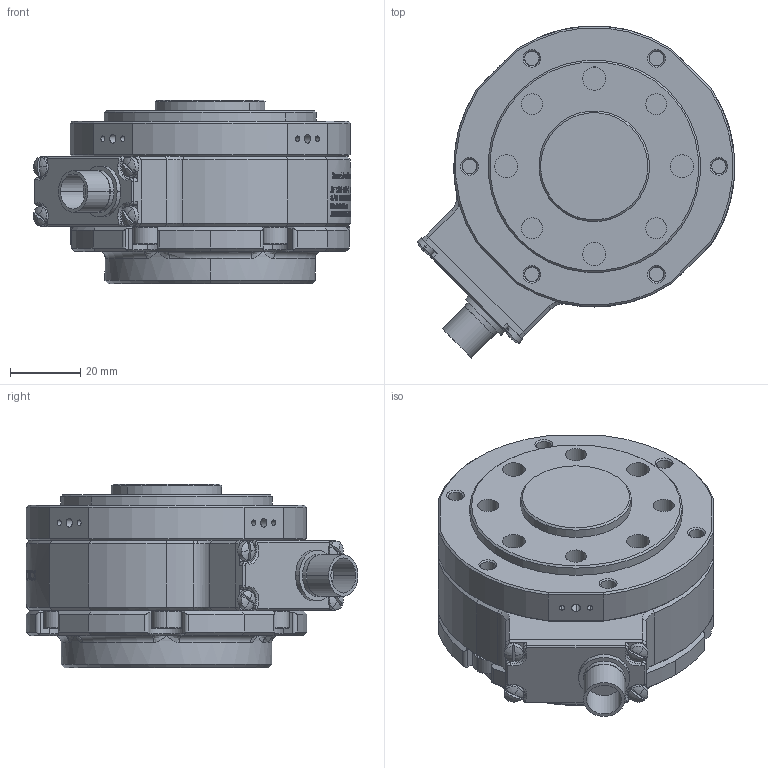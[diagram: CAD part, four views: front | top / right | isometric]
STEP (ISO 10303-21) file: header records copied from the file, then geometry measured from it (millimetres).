
FILE_DESCRIPTION (( 'STEP AP203' ), '1' );
FILE_NAME ('RB_KIT_v1.1.STEP', '2024-08-14T04:50:20', ( '' ), ( '' ), 'SwSTEP 2.0', 'SolidWorks 2021', '' );
FILE_SCHEMA (( 'CONFIG_CONTROL_DESIGN' ));
Length unit declared in the file: millimetre
Products named in the file (14): AM21AA-AFT80-A103-3; AM21AA-AFT80-A105-0; AM21AA-AFT80-A108-0; SZ-3N; socket head cap screw_ks_KS 1003 - M3 x 10 x 10-N; AM21AA-AFT80-A106-0_ap_2; AM21AA-AFT80-A101-7_頂睡瓣遴賅筐_hole_type; fillister head screw_ks_KS 1021 F - M3 x 10-N; socket head cap screw_ks_KS 1003 - M5 x 10 x 10-N; RB_KIT_v1.1; AM21AA-AFT80-A102-3_頂睡瓣遴賅筐; G40F1C-P09MCC0; FHB_M3_3; socket head cap screw_ks_KS 1003 - M5 x 25 x 25-N
Assembly tree (42 placements, depth 2):
  RB_KIT_v1.1
    AM21AA-AFT80-A103-3
    AM21AA-AFT80-A102-3_頂睡瓣遴賅筐
    AM21AA-AFT80-A105-0
    G40F1C-P09MCC0
    FHB_M3_3  x13
    socket head cap screw_ks_KS 1003 - M3 x 10 x 10-N  x4
    SZ-3N  x4
    fillister head screw_ks_KS 1021 F - M3 x 10-N  x4
    AM21AA-AFT80-A101-7_頂睡瓣遴賅筐_hole_type
    AM21AA-AFT80-A106-0_ap_2
    AM21AA-AFT80-A108-0
    socket head cap screw_ks_KS 1003 - M5 x 10 x 10-N  x4
    socket head cap screw_ks_KS 1003 - M5 x 25 x 25-N  x6
Bounding box: 90.37 x 94.55 x 52.3 mm (x, y, z)
Volume: 223994.5 mm3; surface area: 82157.5 mm2
Topology: 42 solids, 42 shells, 3372 faces, 8527 edges, 5406 vertices
Faces by surface type: plane 1078, bspline 946, cylinder 855, cone 370, torus 107, sphere 16
Entity records: 170678 total; most frequent: CARTESIAN_POINT 108470, ORIENTED_EDGE 14214, DIRECTION 9625, EDGE_CURVE 7107, VERTEX_POINT 4621, AXIS2_PLACEMENT_3D 3761, EDGE_LOOP 3064, B_SPLINE_CURVE_WITH_KNOTS 2911
